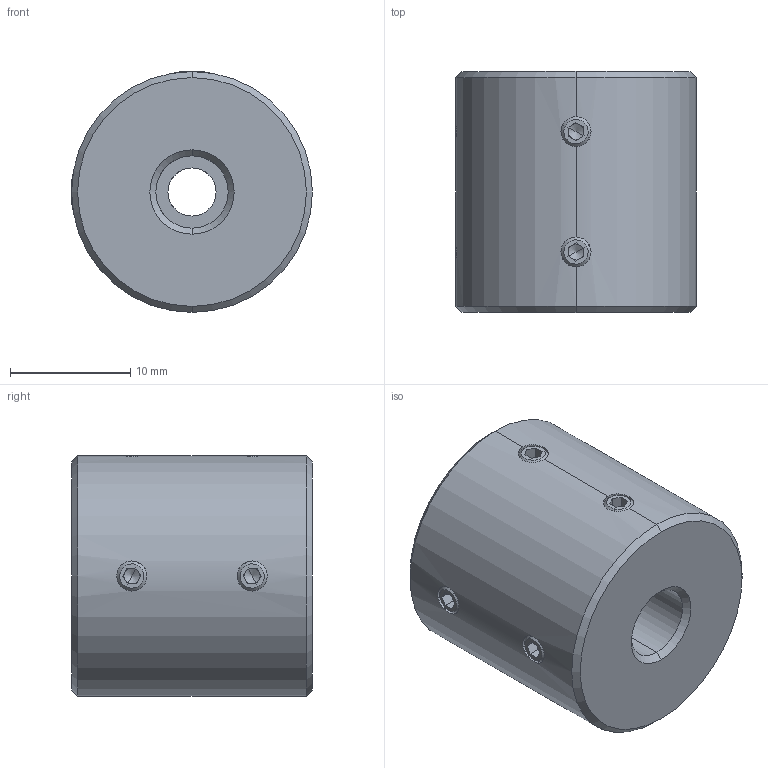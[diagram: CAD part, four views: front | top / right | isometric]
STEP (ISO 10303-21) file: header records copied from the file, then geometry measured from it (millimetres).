
FILE_DESCRIPTION (( 'STEP AP214' ), '1' );
FILE_NAME ('LL-D-D20L20-4-6.STEP', '2022-07-23T06:26:17', ( '' ), ( '' ), 'SwSTEP 2.0', 'SolidWorks 2022', '' );
FILE_SCHEMA (( 'AUTOMOTIVE_DESIGN' ));
Length unit declared in the file: millimetre
Products named in the file (1): LL-D-D20L20-4-6
Bounding box: 20 x 20 x 20 mm (x, y, z)
Volume: 5773.2 mm3; surface area: 2295.2 mm2
Topology: 1 solids, 1 shells, 113 faces, 286 edges, 176 vertices
Faces by surface type: plane 59, cone 32, cylinder 22
Entity records: 3644 total; most frequent: CARTESIAN_POINT 894, DIRECTION 582, ORIENTED_EDGE 556, EDGE_CURVE 278, AXIS2_PLACEMENT_3D 214, VERTEX_POINT 176, LINE 154, VECTOR 154
